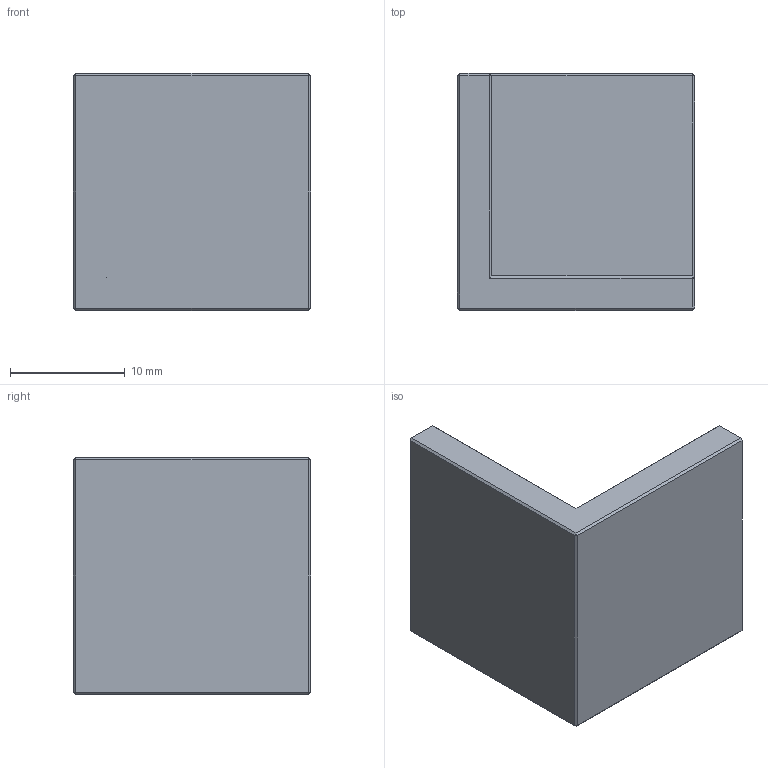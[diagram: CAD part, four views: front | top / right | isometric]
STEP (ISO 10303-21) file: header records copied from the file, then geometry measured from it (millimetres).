
FILE_DESCRIPTION (( 'STEP AP214' ), '1' );
FILE_NAME ('GP-RCCB-025AU-1.STEP', '2022-11-08T10:04:45', ( '' ), ( '' ), 'SwSTEP 2.0', 'SolidWorks 2022', '' );
FILE_SCHEMA (( 'AUTOMOTIVE_DESIGN' ));
Length unit declared in the file: millimetre
Products named in the file (1): GP-RCCB-025AU-1
Bounding box: 20.68 x 20.68 x 20.68 mm (x, y, z)
Volume: 3311.6 mm3; surface area: 2530.6 mm2
Topology: 1 solids, 1 shells, 37 faces, 72 edges, 37 vertices
Faces by surface type: plane 37
Entity records: 916 total; most frequent: DIRECTION 148, CARTESIAN_POINT 147, ORIENTED_EDGE 144, LINE 72, EDGE_CURVE 72, VECTOR 72, AXIS2_PLACEMENT_3D 38, PLANE 37
